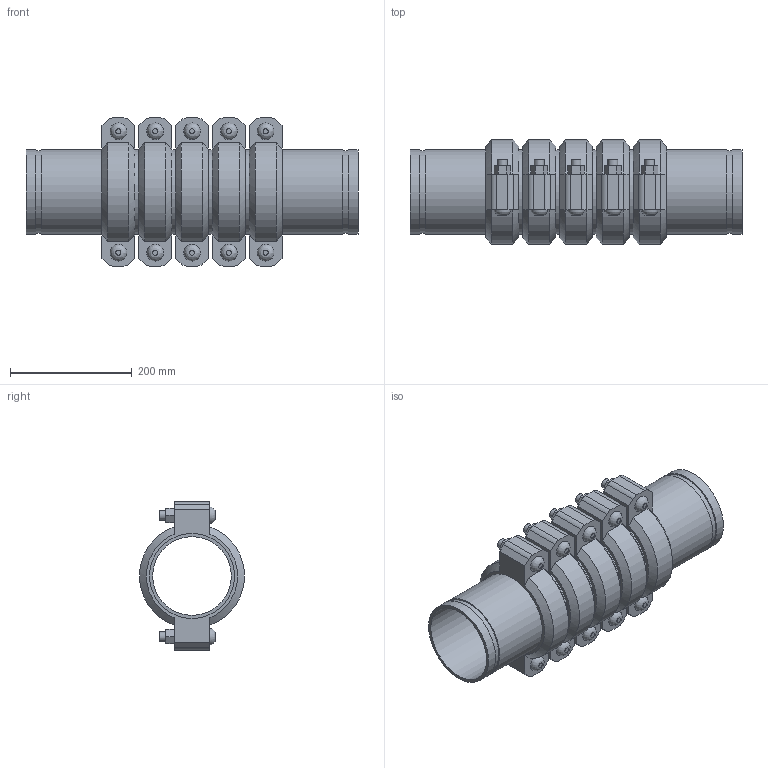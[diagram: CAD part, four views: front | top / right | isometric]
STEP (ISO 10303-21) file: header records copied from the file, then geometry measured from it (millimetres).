
FILE_DESCRIPTION(/* description */ ('VIC EXPANSION JOINT 5 COUPLINGS COMPRESSED STYLE 155 (OGS)','CAx-IF Rec.Pracs.---Representation and Presentation of Product Manufacturing Information (PMI)---4.0---2014-10-13'),/* implementation_level */ '2;1');
FILE_NAME(/* name */ 'C:\Users\kkamble\AppData\Roaming\Autodesk\ApplicationPlugins\Victaulic.Temp\A136\Victaulic_IPS_Expansion Joint_Compressed_5 Couplings_Style 155 (OGS)_05.0 (139.7) (125).stp',/* time_stamp */ '2021-06-27T00:29:52+02:00',/* author */ ('kkamble'),/* organization */ ('Victaulic'),/* preprocessor_version */ 'ST-DEVELOPER v17.2',/* originating_system */ 'Autodesk Inventor 2019',/* authorisation */ '');
FILE_SCHEMA (('AP242_MANAGED_MODEL_BASED_3D_ENGINEERING_MIM_LF { 1 0 10303 442 1 1 4 }'));
Length unit declared in the file: inch
Products named in the file (4): 155-05.0 (139.7); Nipple-05.0 (139.7); Nipple-05.0 (139.7)_1; 075_5_Coup05.0 (139.7)
Assembly tree (11 placements, depth 2):
  155-05.0 (139.7)
    Nipple-05.0 (139.7)  x2
    Nipple-05.0 (139.7)_1  x4
    075_5_Coup05.0 (139.7)  x5
Bounding box: 545.85 x 172.14 x 243.59 mm (x, y, z)
Volume: 4236411.3 mm3; surface area: 997824.3 mm2
Topology: 11 solids, 21 shells, 357 faces, 845 edges, 594 vertices
Faces by surface type: plane 216, cylinder 111, cone 20, bspline 10
Full cylindrical faces by diameter (mm): 15.875 x20, 17.424 x10, 129.388 x6, 133.35 x5, 135.484 x12, 139.7 x28
Entity records: 2810 total; most frequent: CARTESIAN_POINT 495, DIRECTION 465, ORIENTED_EDGE 386, EDGE_CURVE 193, AXIS2_PLACEMENT_3D 186, VERTEX_POINT 138, EDGE_LOOP 107, LINE 93
